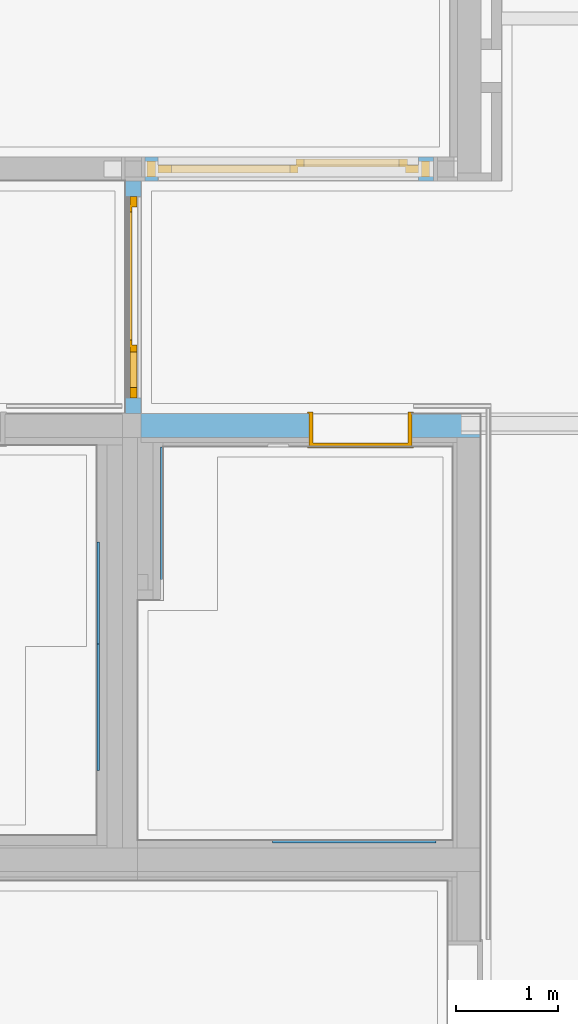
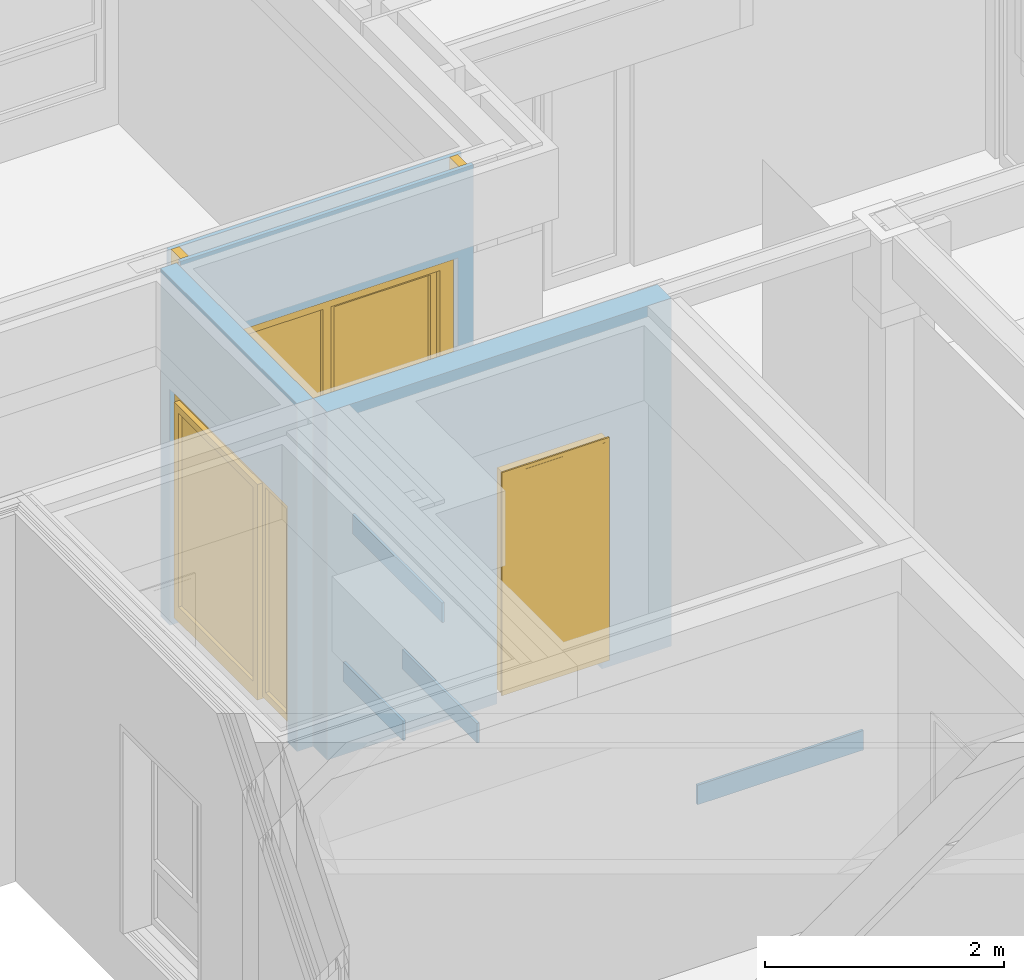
# One storey, part 122 of 222: 4 walls, 3 doors, 3 openings, plus 3 elements that do not belong to this part.
"""IFC4 building model written with IfcOpenShell, lengths in metres."""

from ifc_helpers import new_model, entity, si_unit, converted_unit, derived_unit, frame, frame_2d, origin, origin_with_axes, place, context, subcontext, project, spatial, polyline, rectangle, outline, extrude, clip, bounded_halfspace, closed_shell, open_shell, faceted_brep, surface_model, source, transform, mapped, material, type_object, element, fill, save


model = new_model("IFC4")

# Units and contexts
model_context = context("Model", 3, precision=1e-05, world=origin())
body_context = subcontext(model_context, "Body", "Model", "MODEL_VIEW")
ifc_project = project(units=[si_unit("LENGTHUNIT", "METRE"), si_unit("AREAUNIT", "SQUARE_METRE"), si_unit("VOLUMEUNIT", "CUBIC_METRE"), si_unit("MASSUNIT", "GRAM", prefix="KILO"), converted_unit("PLANEANGLEUNIT", "DEGREE", entity("IfcPlaneAngleMeasure", 0.0174532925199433), si_unit("PLANEANGLEUNIT", "RADIAN"), dimensions=[0, 0, 0, 0, 0, 0, 0]), derived_unit("THERMALTRANSMITTANCEUNIT", [(si_unit("POWERUNIT", "WATT"), 1), (si_unit("THERMODYNAMICTEMPERATUREUNIT", "KELVIN"), -1), (si_unit("LENGTHUNIT", "METRE"), -2)]), derived_unit("VOLUMETRICFLOWRATEUNIT", [(si_unit("LENGTHUNIT", "METRE"), 3), (converted_unit("TIMEUNIT", "hour", entity("IfcTimeMeasure", 3600.0), si_unit("TIMEUNIT", "SECOND"), dimensions=[0, 0, 1, 0, 0, 0, 0]), -1), (si_unit("LENGTHUNIT", "METRE"), -1)])], contexts=[model_context])

# Site, building, storey
site_placement = place(None, origin())
site = spatial("IfcSite", under=ifc_project, at=site_placement, Name="Psychiatrie Neubau Wunstorf", CompositionType="ELEMENT")
building_placement = place(site_placement, origin())
building = spatial("IfcBuilding", under=site, at=building_placement, Name="Neubau H2 Stationsgebäude", CompositionType="ELEMENT")
storey_placement = place(building_placement, frame((0.0, 0.0, 3.6)))
storey = spatial("IfcBuildingStorey", under=building, at=storey_placement, Name="H2 Ebene +1", CompositionType="ELEMENT", Elevation=3.6)

# Wall, opening, door
ifc_material_1 = material(Name="WI-HW 60")
wall_1_placement = place(storey_placement, frame((68.1175, 20.5859981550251, 0.0), z_axis=(0.0, 0.0, 1.0), x_axis=(-1.0, -1.87390953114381e-08, 0.0)))
wall_1 = element("IfcWall", 1, at=wall_1_placement, inside=storey, material=ifc_material_1, context=body_context, shape_type="SweptSolid", body=[
    extrude(outline(polyline([(-3.32400000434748, -0.231999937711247), (0.0, -0.231999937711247), (0.0, 0.0), (-3.32400000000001, 6.22887528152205e-08), (-3.32400000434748, -0.231999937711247)])), frame((3.32400000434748, 0.231999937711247, 0.0), z_axis=(0.0, 0.0, 1.0), x_axis=(1.0, 0.0, 0.0)), (0.0, 0.0, 1.0), 3.55),
])
opening_1_placement = place(wall_1_placement, frame((0.672000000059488, -1.25926720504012e-08, 0.0), z_axis=(1.87390955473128e-08, 1.0, 0.0), x_axis=(0.0, 0.0, 1.0)))
opening_1 = element("IfcOpeningElement", 2, at=opening_1_placement, cuts=wall_1, Name="Türöffnung", ObjectType="Opening", context=body_context, shape_type="SweptSolid", body=[
    extrude(outline(polyline([(2.41, 1.01), (2.41, 0.0), (0.0, 0.0), (0.0, 1.01), (2.41, 1.01)])), origin_with_axes(), (0.0, 0.0, 1.0), 0.232),
])
ifc_material_2 = material(Name="TI-1F-UZ-ZK")
door_type = type_object("IfcDoorType", Name="SMT", OperationType="SINGLE_SWING_RIGHT", ParameterTakesPrecedence=False, PredefinedType="DOOR")
shared_shape_1 = source(origin_with_axes(), body_context, "Body", "Brep", [
    faceted_brep([(0.0, -0.015, 2.41), (0.04, -0.015, 2.41), (0.04, -0.015, 0.15), (0.0, -0.015, 0.15), (0.0, 0.337, 0.15), (0.04, 0.337, 0.15), (0.04, 0.337, 2.41), (0.0, 0.337, 2.41)], [[[0, 1, 2, 3]], [[4, 5, 6, 7]], [[3, 4, 7, 0]], [[2, 5, 4, 3]], [[1, 6, 5, 2]], [[0, 7, 6, 1]]], orient=[[False], [False], [False], [False], [False], [False]]),
    faceted_brep([(0.0, -0.015, 2.425), (0.0, -0.015, 0.15), (-0.015, -0.015, 0.15), (-0.015, -0.015, 2.425), (0.0, 0.0, 0.15), (0.0, 0.0, 2.425), (-0.015, 0.0, 2.425), (-0.015, 0.0, 0.15)], [[[0, 1, 2, 3]], [[4, 5, 6, 7]], [[1, 0, 5, 4]], [[2, 1, 4, 7]], [[3, 2, 7, 6]], [[0, 3, 6, 5]]], orient=[[False], [False], [False], [False], [False], [False]]),
    faceted_brep([(0.0, 0.322, 2.425), (0.0, 0.322, 0.15), (-0.015, 0.322, 0.15), (-0.015, 0.322, 2.425), (0.0, 0.337, 0.15), (0.0, 0.337, 2.425), (-0.015, 0.337, 2.425), (-0.015, 0.337, 0.15)], [[[0, 1, 2, 3]], [[4, 5, 6, 7]], [[1, 0, 5, 4]], [[2, 1, 4, 7]], [[3, 2, 7, 6]], [[0, 3, 6, 5]]], orient=[[False], [False], [False], [False], [False], [False]]),
    faceted_brep([(0.97, -0.015, 2.41), (1.01, -0.015, 2.41), (1.01, -0.015, 0.15), (0.97, -0.015, 0.15), (0.97, 0.337, 0.15), (1.01, 0.337, 0.15), (1.01, 0.337, 2.41), (0.97, 0.337, 2.41)], [[[0, 1, 2, 3]], [[4, 5, 6, 7]], [[3, 4, 7, 0]], [[2, 5, 4, 3]], [[1, 6, 5, 2]], [[0, 7, 6, 1]]], orient=[[False], [False], [False], [False], [False], [False]]),
    faceted_brep([(1.01, -0.015, 2.425), (1.025, -0.015, 2.425), (1.025, -0.015, 0.15), (1.01, -0.015, 0.15), (1.01, 0.0, 0.15), (1.025, 0.0, 0.15), (1.025, 0.0, 2.425), (1.01, 0.0, 2.425)], [[[0, 1, 2, 3]], [[4, 5, 6, 7]], [[3, 4, 7, 0]], [[2, 5, 4, 3]], [[1, 6, 5, 2]], [[0, 7, 6, 1]]], orient=[[False], [False], [False], [False], [False], [False]]),
    faceted_brep([(1.01, 0.322, 2.425), (1.025, 0.322, 2.425), (1.025, 0.322, 0.15), (1.01, 0.322, 0.15), (1.01, 0.337, 0.15), (1.025, 0.337, 0.15), (1.025, 0.337, 2.425), (1.01, 0.337, 2.425)], [[[0, 1, 2, 3]], [[4, 5, 6, 7]], [[3, 4, 7, 0]], [[2, 5, 4, 3]], [[1, 6, 5, 2]], [[0, 7, 6, 1]]], orient=[[False], [False], [False], [False], [False], [False]]),
    faceted_brep([(0.04, -0.015, 2.41), (0.97, -0.015, 2.41), (0.97, -0.015, 2.37), (0.04, -0.015, 2.37), (0.04, 0.337, 2.37), (0.97, 0.337, 2.37), (0.97, 0.337, 2.41), (0.04, 0.337, 2.41)], [[[0, 1, 2, 3]], [[4, 5, 6, 7]], [[3, 4, 7, 0]], [[2, 5, 4, 3]], [[1, 6, 5, 2]], [[0, 7, 6, 1]]], orient=[[False], [False], [False], [False], [False], [False]]),
    faceted_brep([(0.0, -0.015, 2.425), (1.01, -0.015, 2.425), (1.01, -0.015, 2.41), (0.0, -0.015, 2.41), (0.0, 0.0, 2.41), (1.01, 0.0, 2.41), (1.01, 0.0, 2.425), (0.0, 0.0, 2.425)], [[[0, 1, 2, 3]], [[4, 5, 6, 7]], [[3, 4, 7, 0]], [[2, 5, 4, 3]], [[1, 6, 5, 2]], [[0, 7, 6, 1]]], orient=[[False], [False], [False], [False], [False], [False]]),
    faceted_brep([(0.0, 0.322, 2.425), (1.01, 0.322, 2.425), (1.01, 0.322, 2.41), (0.0, 0.322, 2.41), (0.0, 0.337, 2.41), (1.01, 0.337, 2.41), (1.01, 0.337, 2.425), (0.0, 0.337, 2.425)], [[[0, 1, 2, 3]], [[4, 5, 6, 7]], [[3, 4, 7, 0]], [[2, 5, 4, 3]], [[1, 6, 5, 2]], [[0, 7, 6, 1]]], orient=[[False], [False], [False], [False], [False], [False]]),
    faceted_brep([(0.025, 0.288, 2.385), (0.985, 0.288, 2.385), (0.985, 0.288, 0.15), (0.025, 0.288, 0.15), (0.025, 0.338, 0.15), (0.985, 0.338, 0.15), (0.985, 0.338, 2.385), (0.025, 0.338, 2.385)], [[[0, 1, 2, 3]], [[4, 5, 6, 7]], [[3, 4, 7, 0]], [[2, 5, 4, 3]], [[1, 6, 5, 2]], [[0, 7, 6, 1]]], orient=[[False], [False], [False], [False], [False], [False]]),
])
door_1_placement = place(opening_1_placement, frame((0.0, 0.0, 0.0), z_axis=(1.0, 0.0, 0.0), x_axis=(0.0, 1.0, 2.35874680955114e-16)))
door_1 = element("IfcDoor", 3, at=door_1_placement, inside=storey, type_object=door_type, material=ifc_material_2, Name="SMT", OverallHeight=2.41, OverallWidth=1.01, context=body_context, shape_type="MappedRepresentation", body=[
    mapped(shared_shape_1, transform((0.0, 0.0, 0.0), x_axis=(1.0, 0.0, 0.0), y_axis=(0.0, 1.0, 0.0), z_axis=(0.0, 0.0, 1.0), scale=1.0)),
])
fill(opening_1, door_1)

# Walls
wall_2_placement = place(storey_placement, frame((66.0788893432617, 16.3860000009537, 1.5)))
element("IfcWall", 4, at=wall_2_placement, inside=storey, Name="WV 1.1", context=body_context, shape_type="Brep", body=[
    faceted_brep([(0.0, 0.025, 0.0), (0.0, 0.0, 0.0), (1.6, 0.0, 0.0), (1.6, 0.025, 0.0), (0.0, 0.0, 0.2), (0.0, 0.025, 0.2), (1.6, 0.025, 0.2), (1.6, 0.0, 0.2)], [[[0, 1, 2, 3]], [[4, 5, 6, 7]], [[1, 0, 5, 4]], [[2, 1, 4, 7]], [[3, 2, 7, 6]], [[0, 3, 6, 5]]], orient=[[False], [False], [False], [False], [False], [False]]),
])
wall_3_placement = place(storey_placement, frame((64.36, 17.09625211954, 2.3)))
element("IfcWall", 5, at=wall_3_placement, inside=storey, Name="WV 1.1", context=body_context, shape_type="Brep", body=[
    faceted_brep([(0.0, 0.0, 0.0), (0.025, 0.0, 0.0), (0.025, 1.25, 0.0), (0.0, 1.25, 0.0), (0.025, 0.0, 0.2), (0.0, 0.0, 0.2), (0.0, 1.25, 0.2), (0.025, 1.25, 0.2)], [[[0, 1, 2, 3]], [[4, 5, 6, 7]], [[1, 0, 5, 4]], [[2, 1, 4, 7]], [[3, 2, 7, 6]], [[0, 3, 6, 5]]], orient=[[False], [False], [False], [False], [False], [False]]),
])
wall_4_placement = place(storey_placement, frame((64.36, 18.3310000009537, 1.575)))
element("IfcWall", 6, at=wall_4_placement, inside=storey, Name="WV 1.1", context=body_context, shape_type="Brep", body=[
    faceted_brep([(0.0, 0.0, 0.0), (0.025, 0.0, 0.0), (0.025, 1.0, 0.0), (0.0, 1.0, 0.0), (0.025, 0.0, 0.2), (0.0, 0.0, 0.2), (0.0, 1.0, 0.2), (0.025, 1.0, 0.2)], [[[0, 1, 2, 3]], [[4, 5, 6, 7]], [[1, 0, 5, 4]], [[2, 1, 4, 7]], [[3, 2, 7, 6]], [[0, 3, 6, 5]]], orient=[[False], [False], [False], [False], [False], [False]]),
])
wall_5_placement = place(storey_placement, frame((64.985, 18.7609960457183, 2.3)))
element("IfcWall", 7, at=wall_5_placement, inside=storey, Name="WV 1.1", context=body_context, shape_type="Brep", body=[
    faceted_brep([(0.0, 0.0, 0.0), (0.025, 0.0, 0.0), (0.025, 1.5, 0.0), (0.0, 1.5, 0.0), (0.025, 0.0, 0.2), (0.0, 0.0, 0.2), (0.0, 1.5, 0.2), (0.025, 1.5, 0.2)], [[[0, 1, 2, 3]], [[4, 5, 6, 7]], [[1, 0, 5, 4]], [[2, 1, 4, 7]], [[3, 2, 7, 6]], [[0, 3, 6, 5]]], orient=[[False], [False], [False], [False], [False], [False]]),
])

# Wall, opening, door
ifc_material_3 = material(Name="WI-LW 60")
wall_6_placement = place(storey_placement, frame((64.6385, 22.8639999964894, 0.0), z_axis=(0.0, 0.0, 1.0), x_axis=(0.0, -1.0, 0.0)))
wall_6 = element("IfcWall", 8, at=wall_6_placement, inside=storey, material=ifc_material_3, context=body_context, shape_type="SweptSolid", body=[
    extrude(rectangle(XDim=2.27800196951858, YDim=0.155000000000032, at=frame_2d((1.13900098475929, 0.0775000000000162), x_axis=(1.0, 0.0))), origin_with_axes(), (0.0, 0.0, 1.0), 3.55),
])
opening_2_placement = place(wall_6_placement, frame((0.155000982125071, 0.0, 0.0), z_axis=(0.0, 1.0, 0.0), x_axis=(0.0, 0.0, 1.0)))
opening_2 = element("IfcOpeningElement", 9, at=opening_2_placement, cuts=wall_6, Name="Türöffnung", ObjectType="Opening", context=body_context, shape_type="SweptSolid", body=[
    extrude(outline(polyline([(2.41, 1.968), (2.41, 0.0), (0.0, 0.0), (0.0, 1.968), (2.41, 1.968)])), origin_with_axes(), (0.0, 0.0, 1.0), 0.155),
])
ifc_material_4 = material(Name="TI-1F-SG-D-M")
shared_shape_2 = source(origin_with_axes(), body_context, "Body", "Brep", [
    faceted_brep([(-0.127500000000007, 0.0850000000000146, 0.0), (-0.127500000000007, -0.0149999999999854, 0.0), (-0.0275000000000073, -0.0149999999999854, 0.0), (-0.0275000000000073, 0.0850000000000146, 0.0), (-0.127500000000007, -0.0149999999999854, 3.55), (-0.127500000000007, 0.0850000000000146, 3.55), (-0.0275000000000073, 0.0850000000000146, 3.55), (-0.0275000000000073, -0.0149999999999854, 3.55)], [[[0, 1, 2, 3]], [[4, 5, 6, 7]], [[1, 0, 5, 4]], [[2, 1, 4, 7]], [[3, 2, 7, 6]], [[0, 3, 6, 5]]], orient=[[False], [False], [False], [False], [False], [False]]),
    faceted_brep([(1.99549999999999, 0.0850000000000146, 0.0), (1.99549999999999, -0.0149999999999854, 0.0), (2.09549999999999, -0.0149999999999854, 0.0), (2.09549999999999, 0.0850000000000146, 0.0), (1.99549999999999, -0.0149999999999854, 3.55), (1.99549999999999, 0.0850000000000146, 3.55), (2.09549999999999, 0.0850000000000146, 3.55), (2.09549999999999, -0.0149999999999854, 3.55)], [[[0, 1, 2, 3]], [[4, 5, 6, 7]], [[1, 0, 5, 4]], [[2, 1, 4, 7]], [[3, 2, 7, 6]], [[0, 3, 6, 5]]], orient=[[False], [False], [False], [False], [False], [False]]),
    faceted_brep([(-0.0275000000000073, 0.0850000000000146, 2.4375), (-0.0275000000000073, -0.0149999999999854, 2.4375), (1.99549999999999, -0.0149999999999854, 2.4375), (1.99549999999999, 0.0850000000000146, 2.4375), (-0.0275000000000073, -0.0149999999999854, 2.5375), (-0.0275000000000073, 0.0850000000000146, 2.5375), (1.99549999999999, 0.0850000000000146, 2.5375), (1.99549999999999, -0.0149999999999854, 2.5375)], [[[0, 1, 2, 3]], [[4, 5, 6, 7]], [[1, 0, 5, 4]], [[2, 1, 4, 7]], [[3, 2, 7, 6]], [[0, 3, 6, 5]]], orient=[[False], [False], [False], [False], [False], [False]]),
])
shared_shape_3 = source(origin_with_axes(), body_context, "Body", "SurfaceModel", [
    surface_model("IfcShellBasedSurfaceModel", [(1.96799999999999, 0.0, 2.41), (1.96799999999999, 0.0, 0.15), (1.86799999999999, 0.0, 0.15), (1.86799999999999, 0.0, 2.41), (1.96799999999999, 0.0700000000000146, 0.15), (1.96799999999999, 0.0700000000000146, 2.41), (1.86799999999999, 0.0700000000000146, 2.41), (1.86799999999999, 0.0700000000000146, 0.15)], [closed_shell([[[0, 1, 2, 3]], [[4, 5, 6, 7]], [[1, 0, 5, 4]], [[2, 1, 4, 7]], [[3, 2, 7, 6]], [[0, 3, 6, 5]]], orient=[[False], [False], [False], [False], [False], [False]])]),
    surface_model("IfcShellBasedSurfaceModel", [(0.0999999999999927, 0.0, 2.41), (0.0999999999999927, 0.0, 0.15), (0.0, 0.0, 0.15), (0.0, 0.0, 2.41), (0.0999999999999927, 0.0700000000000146, 0.15), (0.0999999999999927, 0.0700000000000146, 2.41), (0.0, 0.0700000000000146, 2.41), (0.0, 0.0700000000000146, 0.15)], [closed_shell([[[0, 1, 2, 3]], [[4, 5, 6, 7]], [[1, 0, 5, 4]], [[2, 1, 4, 7]], [[3, 2, 7, 6]], [[0, 3, 6, 5]]], orient=[[False], [False], [False], [False], [False], [False]])]),
    surface_model("IfcShellBasedSurfaceModel", [(1.86799999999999, 0.0, 2.41), (1.86799999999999, 0.0, 2.31), (0.0999999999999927, 0.0, 2.31), (0.0999999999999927, 0.0, 2.41), (1.86799999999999, 0.0700000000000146, 2.31), (1.86799999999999, 0.0700000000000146, 2.41), (0.0999999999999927, 0.0700000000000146, 2.41), (0.0999999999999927, 0.0700000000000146, 2.31)], [closed_shell([[[0, 1, 2, 3]], [[4, 5, 6, 7]], [[1, 0, 5, 4]], [[2, 1, 4, 7]], [[3, 2, 7, 6]], [[0, 3, 6, 5]]], orient=[[False], [False], [False], [False], [False], [False]])]),
    surface_model("IfcShellBasedSurfaceModel", [(0.517999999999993, 0.0, 2.31), (0.517999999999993, 0.0, 0.15), (0.447999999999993, 0.0, 0.15), (0.447999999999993, 0.0, 2.31), (0.517999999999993, 0.0700000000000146, 0.15), (0.517999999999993, 0.0700000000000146, 2.31), (0.447999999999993, 0.0700000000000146, 2.31), (0.447999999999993, 0.0700000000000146, 0.15)], [closed_shell([[[0, 1, 2, 3]], [[4, 5, 6, 7]], [[1, 0, 5, 4]], [[2, 1, 4, 7]], [[3, 2, 7, 6]], [[0, 3, 6, 5]]], orient=[[False], [False], [False], [False], [False], [False]])]),
    surface_model("IfcShellBasedSurfaceModel", [(1.88799999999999, 0.0500000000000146, 2.33), (1.88799999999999, 0.0500000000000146, 0.13), (1.81799999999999, 0.0500000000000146, 0.13), (1.81799999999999, 0.0500000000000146, 2.33), (1.88799999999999, 0.120000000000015, 0.13), (1.88799999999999, 0.120000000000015, 2.33), (1.81799999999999, 0.120000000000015, 2.33), (1.81799999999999, 0.120000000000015, 0.13)], [closed_shell([[[0, 1, 2, 3]], [[4, 5, 6, 7]], [[1, 0, 5, 4]], [[2, 1, 4, 7]], [[3, 2, 7, 6]], [[0, 3, 6, 5]]], orient=[[False], [False], [False], [False], [False], [False]])]),
    surface_model("IfcShellBasedSurfaceModel", [(0.567999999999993, 0.0500000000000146, 2.33), (0.567999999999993, 0.0500000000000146, 0.13), (0.497999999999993, 0.0500000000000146, 0.13), (0.497999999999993, 0.0500000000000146, 2.33), (0.567999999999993, 0.120000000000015, 0.13), (0.567999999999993, 0.120000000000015, 2.33), (0.497999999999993, 0.120000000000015, 2.33), (0.497999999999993, 0.120000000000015, 0.13)], [closed_shell([[[0, 1, 2, 3]], [[4, 5, 6, 7]], [[1, 0, 5, 4]], [[2, 1, 4, 7]], [[3, 2, 7, 6]], [[0, 3, 6, 5]]], orient=[[False], [False], [False], [False], [False], [False]])]),
    surface_model("IfcShellBasedSurfaceModel", [(1.81799999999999, 0.0500000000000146, 0.28), (1.81799999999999, 0.0500000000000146, 0.13), (0.567999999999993, 0.0500000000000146, 0.13), (0.567999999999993, 0.0500000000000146, 0.28), (1.81799999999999, 0.120000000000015, 0.13), (1.81799999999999, 0.120000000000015, 0.28), (0.567999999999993, 0.120000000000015, 0.28), (0.567999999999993, 0.120000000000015, 0.13)], [closed_shell([[[0, 1, 2, 3]], [[4, 5, 6, 7]], [[1, 0, 5, 4]], [[2, 1, 4, 7]], [[3, 2, 7, 6]], [[0, 3, 6, 5]]], orient=[[False], [False], [False], [False], [False], [False]])]),
    surface_model("IfcShellBasedSurfaceModel", [(1.81799999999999, 0.0500000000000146, 2.33), (1.81799999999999, 0.0500000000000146, 2.26), (0.567999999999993, 0.0500000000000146, 2.26), (0.567999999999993, 0.0500000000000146, 2.33), (1.81799999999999, 0.120000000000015, 2.26), (1.81799999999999, 0.120000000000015, 2.33), (0.567999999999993, 0.120000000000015, 2.33), (0.567999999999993, 0.120000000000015, 2.26)], [closed_shell([[[0, 1, 2, 3]], [[4, 5, 6, 7]], [[1, 0, 5, 4]], [[2, 1, 4, 7]], [[3, 2, 7, 6]], [[0, 3, 6, 5]]], orient=[[False], [False], [False], [False], [False], [False]])]),
    surface_model("IfcShellBasedSurfaceModel", [(0.447999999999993, 0.0, 0.22), (0.447999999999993, 0.0, 0.15), (0.0999999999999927, 0.0, 0.15), (0.0999999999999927, 0.0, 0.22), (0.447999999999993, 0.0700000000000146, 0.15), (0.447999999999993, 0.0700000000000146, 0.22), (0.0999999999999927, 0.0700000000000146, 0.22), (0.0999999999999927, 0.0700000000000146, 0.15)], [closed_shell([[[0, 1, 2, 3]], [[4, 5, 6, 7]], [[1, 0, 5, 4]], [[2, 1, 4, 7]], [[3, 2, 7, 6]], [[0, 3, 6, 5]]], orient=[[False], [False], [False], [False], [False], [False]])]),
    surface_model("IfcShellBasedSurfaceModel", [(1.81799999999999, 0.0850000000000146, 0.28), (0.567999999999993, 0.0850000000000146, 0.28), (0.567999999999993, 0.0850000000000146, 2.26), (1.81799999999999, 0.0850000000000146, 2.26)], [open_shell([[[0, 1, 2, 3]]], orient=[[False]])]),
    surface_model("IfcShellBasedSurfaceModel", [(0.447999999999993, 0.0350000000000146, 0.22), (0.0999999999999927, 0.0350000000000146, 0.22), (0.0999999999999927, 0.0350000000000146, 2.31), (0.447999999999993, 0.0350000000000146, 2.31)], [open_shell([[[0, 1, 2, 3]]], orient=[[False]])]),
])
door_2_placement = place(opening_2_placement, frame((0.0, 1.968, 0.115), z_axis=(1.0, 0.0, 0.0), x_axis=(0.0, -1.0, 0.0)))
door_2 = element("IfcDoor", 10, at=door_2_placement, inside=storey, material=ifc_material_4, Name="SMT", OperationType="USERDEFINED", OverallHeight=2.41, OverallWidth=1.968, PredefinedType="DOOR", context=body_context, shape_type="MappedRepresentation", body=[
    mapped(shared_shape_2, transform((0.0, 0.0, 0.0), x_axis=(1.0, 0.0, 0.0), y_axis=(0.0, 1.0, 0.0), z_axis=(0.0, 0.0, 1.0), scale=1.0)),
    mapped(shared_shape_3, transform((0.0, 0.0, 0.0), x_axis=(1.0, 0.0, 0.0), y_axis=(0.0, 1.0, 0.0), z_axis=(0.0, 0.0, 1.0), scale=1.0)),
])
fill(opening_2, door_2)

ifc_material_5 = material(Name="WI-LW 60")
wall_7_placement = place(storey_placement, frame((67.657, 23.0959999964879, 0.0), z_axis=(0.0, 0.0, 1.0), x_axis=(-1.0, 0.0, 0.0)))
wall_7 = element("IfcWall", 11, at=wall_7_placement, inside=storey, material=ifc_material_5, context=body_context, shape_type="Clipping", body=[
    clip(extrude(rectangle(XDim=2.825, YDim=0.232, at=frame_2d((1.4125, 0.116), x_axis=(1.0, 0.0))), origin_with_axes(), (0.0, 0.0, 1.0), 3.55), bounded_halfspace(frame((1.4125, 0.115999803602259, 3.25), z_axis=(0.0, 0.0, -1.0), x_axis=(0.0, -1.0, 0.0)), True, origin_with_axes(), polyline([(0.0, 0.195999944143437), (0.0, 0.0359996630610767), (2.825, 0.0359996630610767), (2.825, 0.195999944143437), (0.0, 0.195999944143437)]))),
])
opening_3_placement = place(wall_7_placement, frame((2.6975, 0.232, 0.0), z_axis=(0.0, -1.0, 0.0), x_axis=(0.0, 0.0, 1.0)))
opening_3 = element("IfcOpeningElement", 12, at=opening_3_placement, cuts=wall_7, Name="Türöffnung", ObjectType="Opening", context=body_context, shape_type="SweptSolid", body=[
    extrude(outline(polyline([(2.65, 2.55), (2.65, 0.0), (0.0, 0.0), (0.0, 2.55), (2.65, 2.55)])), origin_with_axes(), (0.0, 0.0, 1.0), 0.232),
])
ifc_material_6 = material(Name="TI-1F-AG-D-1S-O")
shared_shape_4 = source(origin_with_axes(), body_context, "Body", "Brep", [
    faceted_brep([(-0.1075, -0.04, 0.0), (-0.0275, -0.04, 0.0), (-0.0275, 0.12, 0.0), (-0.1075, 0.12, 0.0), (-0.1075, 0.12, 3.55), (-0.0275, 0.12, 3.55), (-0.0275, -0.04, 3.55), (-0.1075, -0.04, 3.55)], [[[0, 1, 2, 3]], [[4, 5, 6, 7]], [[3, 4, 7, 0]], [[2, 5, 4, 3]], [[1, 6, 5, 2]], [[0, 7, 6, 1]]], orient=[[False], [False], [False], [False], [False], [False]]),
    faceted_brep([(2.5775, -0.04, 0.0), (2.6575, -0.04, 0.0), (2.6575, 0.12, 0.0), (2.5775, 0.12, 0.0), (2.5775, 0.12, 3.55), (2.6575, 0.12, 3.55), (2.6575, -0.04, 3.55), (2.5775, -0.04, 3.55)], [[[0, 1, 2, 3]], [[4, 5, 6, 7]], [[3, 4, 7, 0]], [[2, 5, 4, 3]], [[1, 6, 5, 2]], [[0, 7, 6, 1]]], orient=[[False], [False], [False], [False], [False], [False]]),
    faceted_brep([(-0.0275, -0.04, 2.6775), (2.5775, -0.04, 2.6775), (2.5775, 0.12, 2.6775), (-0.0275, 0.12, 2.6775), (-0.0275, 0.12, 2.7575), (2.5775, 0.12, 2.7575), (2.5775, -0.04, 2.7575), (-0.0275, -0.04, 2.7575)], [[[0, 1, 2, 3]], [[4, 5, 6, 7]], [[3, 4, 7, 0]], [[2, 5, 4, 3]], [[1, 6, 5, 2]], [[0, 7, 6, 1]]], orient=[[False], [False], [False], [False], [False], [False]]),
])
shared_shape_5 = source(origin_with_axes(), body_context, "Body", "SurfaceModel", [
    surface_model("IfcShellBasedSurfaceModel", [(2.55, 0.0005, 2.65), (2.55, 0.0005, 0.15), (2.5, 0.0005, 0.15), (2.5, 0.0005, 2.65), (2.55, 0.0795, 0.15), (2.55, 0.0795, 2.65), (2.5, 0.0795, 2.65), (2.5, 0.0795, 0.15)], [closed_shell([[[0, 1, 2, 3]], [[4, 5, 6, 7]], [[1, 0, 5, 4]], [[2, 1, 4, 7]], [[3, 2, 7, 6]], [[0, 3, 6, 5]]], orient=[[False], [False], [False], [False], [False], [False]])]),
    surface_model("IfcShellBasedSurfaceModel", [(0.05, 0.0005, 2.65), (0.05, 0.0005, 0.15), (0.0, 0.0005, 0.15), (0.0, 0.0005, 2.65), (0.05, 0.0795, 0.15), (0.05, 0.0795, 2.65), (0.0, 0.0795, 2.65), (0.0, 0.0795, 0.15)], [closed_shell([[[0, 1, 2, 3]], [[4, 5, 6, 7]], [[1, 0, 5, 4]], [[2, 1, 4, 7]], [[3, 2, 7, 6]], [[0, 3, 6, 5]]], orient=[[False], [False], [False], [False], [False], [False]])]),
    surface_model("IfcShellBasedSurfaceModel", [(2.5, 0.0005, 2.65), (2.5, 0.0005, 2.6), (0.05, 0.0005, 2.6), (0.05, 0.0005, 2.65), (2.5, 0.0795, 2.6), (2.5, 0.0795, 2.65), (0.05, 0.0795, 2.65), (0.05, 0.0795, 2.6)], [closed_shell([[[0, 1, 2, 3]], [[4, 5, 6, 7]], [[1, 0, 5, 4]], [[2, 1, 4, 7]], [[3, 2, 7, 6]], [[0, 3, 6, 5]]], orient=[[False], [False], [False], [False], [False], [False]])]),
    surface_model("IfcShellBasedSurfaceModel", [(2.5, 0.0, 2.6), (2.5, 0.0, 0.15), (2.42, 0.0, 0.15), (2.42, 0.0, 2.6), (2.5, 0.08, 0.15), (2.5, 0.08, 2.6), (2.42, 0.08, 2.6), (2.42, 0.08, 0.15)], [closed_shell([[[0, 1, 2, 3]], [[4, 5, 6, 7]], [[1, 0, 5, 4]], [[2, 1, 4, 7]], [[3, 2, 7, 6]], [[0, 3, 6, 5]]], orient=[[False], [False], [False], [False], [False], [False]])]),
    surface_model("IfcShellBasedSurfaceModel", [(0.13, 0.0, 2.6), (0.13, 0.0, 0.15), (0.05, 0.0, 0.15), (0.05, 0.0, 2.6), (0.13, 0.08, 0.15), (0.13, 0.08, 2.6), (0.05, 0.08, 2.6), (0.05, 0.08, 0.15)], [closed_shell([[[0, 1, 2, 3]], [[4, 5, 6, 7]], [[1, 0, 5, 4]], [[2, 1, 4, 7]], [[3, 2, 7, 6]], [[0, 3, 6, 5]]], orient=[[False], [False], [False], [False], [False], [False]])]),
    surface_model("IfcShellBasedSurfaceModel", [(2.42, 0.0, 2.6), (2.42, 0.0, 2.52), (0.13, 0.0, 2.52), (0.13, 0.0, 2.6), (2.42, 0.08, 2.52), (2.42, 0.08, 2.6), (0.13, 0.08, 2.6), (0.13, 0.08, 2.52)], [closed_shell([[[0, 1, 2, 3]], [[4, 5, 6, 7]], [[1, 0, 5, 4]], [[2, 1, 4, 7]], [[3, 2, 7, 6]], [[0, 3, 6, 5]]], orient=[[False], [False], [False], [False], [False], [False]])]),
    surface_model("IfcShellBasedSurfaceModel", [(2.44, 0.06, 2.54), (2.44, 0.06, 0.13), (2.36, 0.06, 0.13), (2.36, 0.06, 2.54), (2.44, 0.14, 0.13), (2.44, 0.14, 2.54), (2.36, 0.14, 2.54), (2.36, 0.14, 0.13)], [closed_shell([[[0, 1, 2, 3]], [[4, 5, 6, 7]], [[1, 0, 5, 4]], [[2, 1, 4, 7]], [[3, 2, 7, 6]], [[0, 3, 6, 5]]], orient=[[False], [False], [False], [False], [False], [False]])]),
    surface_model("IfcShellBasedSurfaceModel", [(1.43, 0.06, 2.54), (1.43, 0.06, 0.13), (1.35, 0.06, 0.13), (1.35, 0.06, 2.54), (1.43, 0.14, 0.13), (1.43, 0.14, 2.54), (1.35, 0.14, 2.54), (1.35, 0.14, 0.13)], [closed_shell([[[0, 1, 2, 3]], [[4, 5, 6, 7]], [[1, 0, 5, 4]], [[2, 1, 4, 7]], [[3, 2, 7, 6]], [[0, 3, 6, 5]]], orient=[[False], [False], [False], [False], [False], [False]])]),
    surface_model("IfcShellBasedSurfaceModel", [(2.36, 0.06, 0.21), (2.36, 0.06, 0.13), (1.43, 0.06, 0.13), (1.43, 0.06, 0.21), (2.36, 0.14, 0.13), (2.36, 0.14, 0.21), (1.43, 0.14, 0.21), (1.43, 0.14, 0.13)], [closed_shell([[[0, 1, 2, 3]], [[4, 5, 6, 7]], [[1, 0, 5, 4]], [[2, 1, 4, 7]], [[3, 2, 7, 6]], [[0, 3, 6, 5]]], orient=[[False], [False], [False], [False], [False], [False]])]),
    surface_model("IfcShellBasedSurfaceModel", [(2.36, 0.06, 2.54), (2.36, 0.06, 2.46), (1.43, 0.06, 2.46), (1.43, 0.06, 2.54), (2.36, 0.14, 2.46), (2.36, 0.14, 2.54), (1.43, 0.14, 2.54), (1.43, 0.14, 2.46)], [closed_shell([[[0, 1, 2, 3]], [[4, 5, 6, 7]], [[1, 0, 5, 4]], [[2, 1, 4, 7]], [[3, 2, 7, 6]], [[0, 3, 6, 5]]], orient=[[False], [False], [False], [False], [False], [False]])]),
    surface_model("IfcShellBasedSurfaceModel", [(1.369, 0.0, 2.52), (1.369, 0.0, 0.15), (1.289, 0.0, 0.15), (1.289, 0.0, 2.52), (1.369, 0.08, 0.15), (1.369, 0.08, 2.52), (1.289, 0.08, 2.52), (1.289, 0.08, 0.15)], [closed_shell([[[0, 1, 2, 3]], [[4, 5, 6, 7]], [[1, 0, 5, 4]], [[2, 1, 4, 7]], [[3, 2, 7, 6]], [[0, 3, 6, 5]]], orient=[[False], [False], [False], [False], [False], [False]])]),
    surface_model("IfcShellBasedSurfaceModel", [(1.289, 0.0, 0.27), (1.289, 0.0, 0.15), (0.13, 0.0, 0.15), (0.13, 0.0, 0.27), (1.289, 0.08, 0.15), (1.289, 0.08, 0.27), (0.13, 0.08, 0.27), (0.13, 0.08, 0.15)], [closed_shell([[[0, 1, 2, 3]], [[4, 5, 6, 7]], [[1, 0, 5, 4]], [[2, 1, 4, 7]], [[3, 2, 7, 6]], [[0, 3, 6, 5]]], orient=[[False], [False], [False], [False], [False], [False]])]),
    surface_model("IfcShellBasedSurfaceModel", [(1.289, 0.04, 0.27), (0.13, 0.04, 0.27), (0.13, 0.04, 2.52), (1.289, 0.04, 2.52)], [open_shell([[[0, 1, 2, 3]]], orient=[[False]])]),
    surface_model("IfcShellBasedSurfaceModel", [(2.36, 0.1, 0.21), (1.43, 0.1, 0.21), (1.43, 0.1, 2.46), (2.36, 0.1, 2.46)], [open_shell([[[0, 1, 2, 3]]], orient=[[False]])]),
])
door_3_placement = place(opening_3_placement, frame((0.0, 0.0, 0.076), z_axis=(1.0, 0.0, 0.0), x_axis=(0.0, 1.0, 0.0)))
door_3 = element("IfcDoor", 13, at=door_3_placement, inside=storey, material=ifc_material_6, Name="SMT", OperationType="USERDEFINED", OverallHeight=2.65, OverallWidth=2.55, PredefinedType="DOOR", context=body_context, shape_type="MappedRepresentation", body=[
    mapped(shared_shape_4, transform((0.0, 0.0, 0.0), x_axis=(1.0, 0.0, 0.0), y_axis=(0.0, 1.0, 0.0), z_axis=(0.0, 0.0, 1.0), scale=1.0)),
    mapped(shared_shape_5, transform((0.0, 0.0, 0.0), x_axis=(1.0, 0.0, 0.0), y_axis=(0.0, 1.0, 0.0), z_axis=(0.0, 0.0, 1.0), scale=1.0)),
])
fill(opening_3, door_3)

save(model, "model.ifc")
